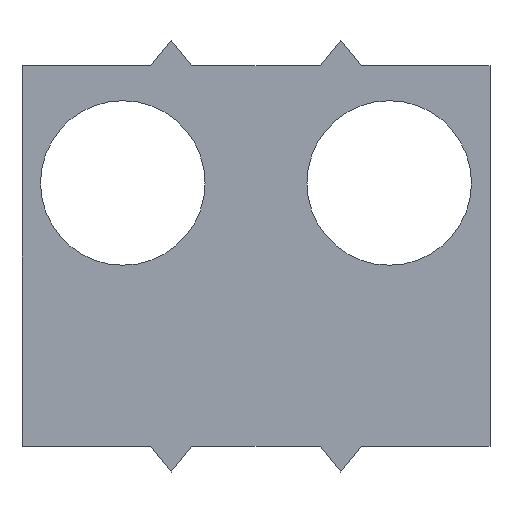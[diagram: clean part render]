
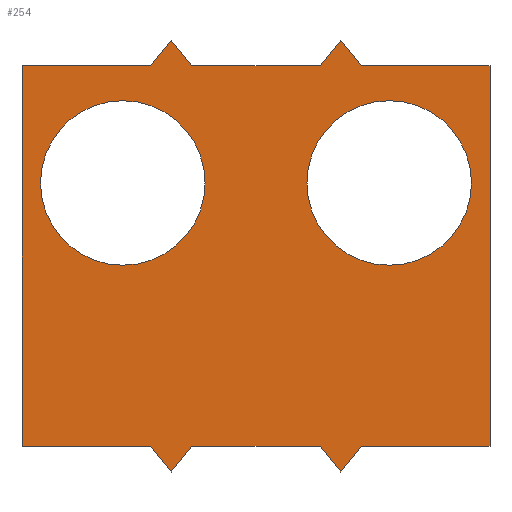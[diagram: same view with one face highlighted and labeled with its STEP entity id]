
A CAD part, front view. The second image highlights one B-rep face of the part: STEP entity #254.
In plain terms, the highlighted planar face has unit normal (0, -1, 0).
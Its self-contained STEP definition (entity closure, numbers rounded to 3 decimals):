
#24 = VERTEX_POINT('',#25);
#25 = CARTESIAN_POINT('',(12.5,-4.,37.));
#31 = EDGE_CURVE('',#24,#32,#34,.T.);
#32 = VERTEX_POINT('',#33);
#33 = CARTESIAN_POINT('',(0.,-4.,37.));
#34 = LINE('',#35,#36);
#35 = CARTESIAN_POINT('',(12.5,-4.,37.));
#36 = VECTOR('',#37,1.);
#37 = DIRECTION('',(-1.,0.,0.));
#62 = EDGE_CURVE('',#24,#63,#65,.T.);
#63 = VERTEX_POINT('',#64);
#64 = CARTESIAN_POINT('',(14.5,-4.,39.5));
#65 = LINE('',#66,#67);
#66 = CARTESIAN_POINT('',(12.5,-4.,37.));
#67 = VECTOR('',#68,1.);
#68 = DIRECTION('',(0.625,0.,0.781));
#93 = EDGE_CURVE('',#32,#94,#96,.T.);
#94 = VERTEX_POINT('',#95);
#95 = CARTESIAN_POINT('',(0.,-4.,0.));
#96 = LINE('',#97,#98);
#97 = CARTESIAN_POINT('',(0.,-4.,37.));
#98 = VECTOR('',#99,1.);
#99 = DIRECTION('',(0.,0.,-1.));
#254 = ADVANCED_FACE('',(#255,#362,#373),#384,.F.);
#255 = FACE_BOUND('',#256,.F.);
#256 = EDGE_LOOP('',(#257,#258,#259,#267,#275,#283,#291,#299,#307,#315,
    #323,#331,#339,#347,#355,#361));
#257 = ORIENTED_EDGE('',*,*,#31,.F.);
#258 = ORIENTED_EDGE('',*,*,#62,.T.);
#259 = ORIENTED_EDGE('',*,*,#260,.T.);
#260 = EDGE_CURVE('',#63,#261,#263,.T.);
#261 = VERTEX_POINT('',#262);
#262 = CARTESIAN_POINT('',(16.5,-4.,37.));
#263 = LINE('',#264,#265);
#264 = CARTESIAN_POINT('',(14.5,-4.,39.5));
#265 = VECTOR('',#266,1.);
#266 = DIRECTION('',(0.625,0.,-0.781));
#267 = ORIENTED_EDGE('',*,*,#268,.F.);
#268 = EDGE_CURVE('',#269,#261,#271,.T.);
#269 = VERTEX_POINT('',#270);
#270 = CARTESIAN_POINT('',(29.,-4.,37.));
#271 = LINE('',#272,#273);
#272 = CARTESIAN_POINT('',(29.,-4.,37.));
#273 = VECTOR('',#274,1.);
#274 = DIRECTION('',(-1.,0.,0.));
#275 = ORIENTED_EDGE('',*,*,#276,.T.);
#276 = EDGE_CURVE('',#269,#277,#279,.T.);
#277 = VERTEX_POINT('',#278);
#278 = CARTESIAN_POINT('',(31.,-4.,39.5));
#279 = LINE('',#280,#281);
#280 = CARTESIAN_POINT('',(29.,-4.,37.));
#281 = VECTOR('',#282,1.);
#282 = DIRECTION('',(0.625,0.,0.781));
#283 = ORIENTED_EDGE('',*,*,#284,.T.);
#284 = EDGE_CURVE('',#277,#285,#287,.T.);
#285 = VERTEX_POINT('',#286);
#286 = CARTESIAN_POINT('',(33.,-4.,37.));
#287 = LINE('',#288,#289);
#288 = CARTESIAN_POINT('',(31.,-4.,39.5));
#289 = VECTOR('',#290,1.);
#290 = DIRECTION('',(0.625,0.,-0.781));
#291 = ORIENTED_EDGE('',*,*,#292,.F.);
#292 = EDGE_CURVE('',#293,#285,#295,.T.);
#293 = VERTEX_POINT('',#294);
#294 = CARTESIAN_POINT('',(45.5,-4.,37.));
#295 = LINE('',#296,#297);
#296 = CARTESIAN_POINT('',(45.5,-4.,37.));
#297 = VECTOR('',#298,1.);
#298 = DIRECTION('',(-1.,0.,0.));
#299 = ORIENTED_EDGE('',*,*,#300,.F.);
#300 = EDGE_CURVE('',#301,#293,#303,.T.);
#301 = VERTEX_POINT('',#302);
#302 = CARTESIAN_POINT('',(45.5,-4.,0.));
#303 = LINE('',#304,#305);
#304 = CARTESIAN_POINT('',(45.5,-4.,0.));
#305 = VECTOR('',#306,1.);
#306 = DIRECTION('',(0.,0.,1.));
#307 = ORIENTED_EDGE('',*,*,#308,.F.);
#308 = EDGE_CURVE('',#309,#301,#311,.T.);
#309 = VERTEX_POINT('',#310);
#310 = CARTESIAN_POINT('',(33.,-4.,0.));
#311 = LINE('',#312,#313);
#312 = CARTESIAN_POINT('',(33.,-4.,0.));
#313 = VECTOR('',#314,1.);
#314 = DIRECTION('',(1.,0.,0.));
#315 = ORIENTED_EDGE('',*,*,#316,.F.);
#316 = EDGE_CURVE('',#317,#309,#319,.T.);
#317 = VERTEX_POINT('',#318);
#318 = CARTESIAN_POINT('',(31.,-4.,-2.5));
#319 = LINE('',#320,#321);
#320 = CARTESIAN_POINT('',(31.,-4.,-2.5));
#321 = VECTOR('',#322,1.);
#322 = DIRECTION('',(0.625,0.,0.781));
#323 = ORIENTED_EDGE('',*,*,#324,.F.);
#324 = EDGE_CURVE('',#325,#317,#327,.T.);
#325 = VERTEX_POINT('',#326);
#326 = CARTESIAN_POINT('',(29.,-4.,0.));
#327 = LINE('',#328,#329);
#328 = CARTESIAN_POINT('',(29.,-4.,0.));
#329 = VECTOR('',#330,1.);
#330 = DIRECTION('',(0.625,0.,-0.781));
#331 = ORIENTED_EDGE('',*,*,#332,.F.);
#332 = EDGE_CURVE('',#333,#325,#335,.T.);
#333 = VERTEX_POINT('',#334);
#334 = CARTESIAN_POINT('',(16.5,-4.,0.));
#335 = LINE('',#336,#337);
#336 = CARTESIAN_POINT('',(16.5,-4.,0.));
#337 = VECTOR('',#338,1.);
#338 = DIRECTION('',(1.,0.,0.));
#339 = ORIENTED_EDGE('',*,*,#340,.F.);
#340 = EDGE_CURVE('',#341,#333,#343,.T.);
#341 = VERTEX_POINT('',#342);
#342 = CARTESIAN_POINT('',(14.5,-4.,-2.5));
#343 = LINE('',#344,#345);
#344 = CARTESIAN_POINT('',(14.5,-4.,-2.5));
#345 = VECTOR('',#346,1.);
#346 = DIRECTION('',(0.625,0.,0.781));
#347 = ORIENTED_EDGE('',*,*,#348,.F.);
#348 = EDGE_CURVE('',#349,#341,#351,.T.);
#349 = VERTEX_POINT('',#350);
#350 = CARTESIAN_POINT('',(12.5,-4.,0.));
#351 = LINE('',#352,#353);
#352 = CARTESIAN_POINT('',(12.5,-4.,0.));
#353 = VECTOR('',#354,1.);
#354 = DIRECTION('',(0.625,0.,-0.781));
#355 = ORIENTED_EDGE('',*,*,#356,.F.);
#356 = EDGE_CURVE('',#94,#349,#357,.T.);
#357 = LINE('',#358,#359);
#358 = CARTESIAN_POINT('',(0.,-4.,0.));
#359 = VECTOR('',#360,1.);
#360 = DIRECTION('',(1.,0.,0.));
#361 = ORIENTED_EDGE('',*,*,#93,.F.);
#362 = FACE_BOUND('',#363,.F.);
#363 = EDGE_LOOP('',(#364));
#364 = ORIENTED_EDGE('',*,*,#365,.T.);
#365 = EDGE_CURVE('',#366,#366,#368,.T.);
#366 = VERTEX_POINT('',#367);
#367 = CARTESIAN_POINT('',(17.8,-4.,25.6));
#368 = CIRCLE('',#369,8.);
#369 = AXIS2_PLACEMENT_3D('',#370,#371,#372);
#370 = CARTESIAN_POINT('',(9.8,-4.,25.6));
#371 = DIRECTION('',(0.,-1.,0.));
#372 = DIRECTION('',(1.,0.,0.));
#373 = FACE_BOUND('',#374,.F.);
#374 = EDGE_LOOP('',(#375));
#375 = ORIENTED_EDGE('',*,*,#376,.T.);
#376 = EDGE_CURVE('',#377,#377,#379,.T.);
#377 = VERTEX_POINT('',#378);
#378 = CARTESIAN_POINT('',(43.7,-4.,25.6));
#379 = CIRCLE('',#380,8.);
#380 = AXIS2_PLACEMENT_3D('',#381,#382,#383);
#381 = CARTESIAN_POINT('',(35.7,-4.,25.6));
#382 = DIRECTION('',(0.,-1.,0.));
#383 = DIRECTION('',(1.,0.,0.));
#384 = PLANE('',#385);
#385 = AXIS2_PLACEMENT_3D('',#386,#387,#388);
#386 = CARTESIAN_POINT('',(22.75,-4.,18.5));
#387 = DIRECTION('',(0.,1.,0.));
#388 = DIRECTION('',(0.,0.,1.));
